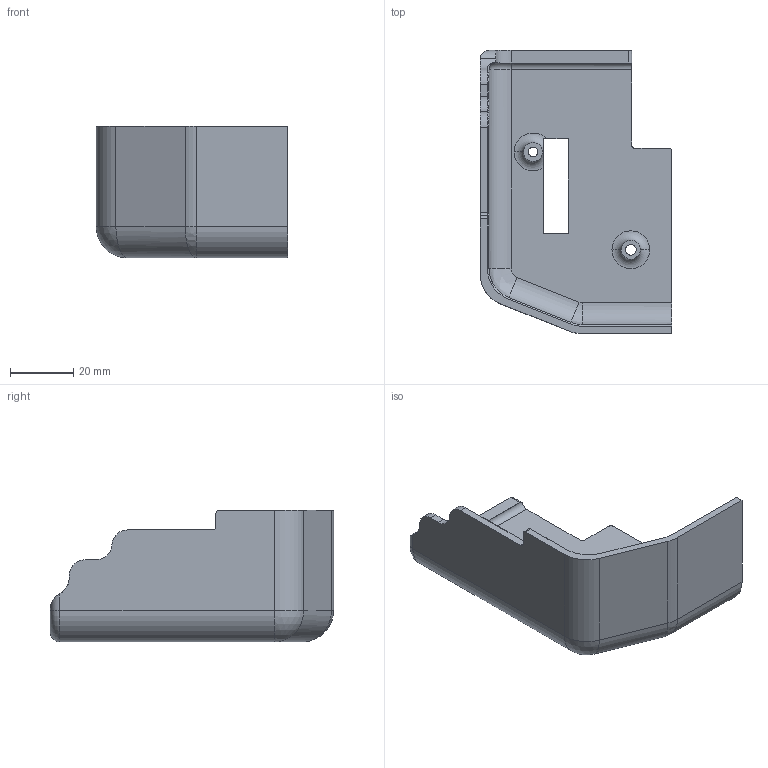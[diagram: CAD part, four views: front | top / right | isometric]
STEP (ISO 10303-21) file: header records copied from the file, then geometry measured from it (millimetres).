
FILE_DESCRIPTION(('CATIA V5 STEP Exchange'),'2;1');
FILE_NAME('E:\Dropbox\3D Printer Fan Duct Designs\1.) Artillery Sidewinder X1\3D Models\5015 Double Ducts\VOLCANO\Update\COVER_MOTORE_ESTRUSORE_STOCK.stp','2021-03-03T22:42:55+00:00',('none'),('none'),'CATIA Version 5 Release 20 SP 1 (IN-10)','CATIA V5 STEP AP214','none');
FILE_SCHEMA(('AUTOMOTIVE_DESIGN { 1 0 10303 214 1 1 1 1 }'));
Length unit declared in the file: millimetre
Products named in the file (1): COVER_MOTORE_ESTRUSORE
Bounding box: 60.8 x 89.8 x 41.77 mm (x, y, z)
Volume: 25556.7 mm3; surface area: 19344.6 mm2
Topology: 1 solids, 1 shells, 90 faces, 235 edges, 146 vertices
Faces by surface type: plane 34, cylinder 33, cone 11, torus 6, bspline 4, sphere 2
Entity records: 2937 total; most frequent: CARTESIAN_POINT 780, ORIENTED_EDGE 466, DIRECTION 383, EDGE_CURVE 233, AXIS2_PLACEMENT_3D 168, VERTEX_POINT 146, VECTOR 129, LINE 129
